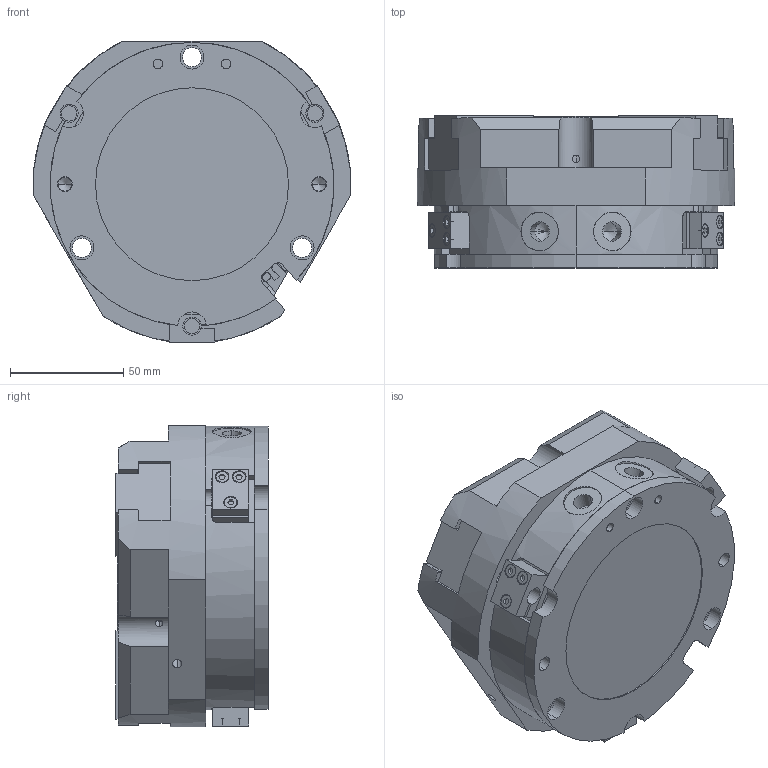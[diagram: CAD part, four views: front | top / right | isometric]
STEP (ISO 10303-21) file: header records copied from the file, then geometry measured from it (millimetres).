
FILE_DESCRIPTION (( 'STEP AP214' ), '1' );
FILE_NAME ('FCT 125A-1.STEP', '2021-09-17T05:34:32', ( 'DEEP' ), ( 'Microsoft' ), 'SwSTEP 2.0', 'SolidWorks 2016', '' );
FILE_SCHEMA (( 'AUTOMOTIVE_DESIGN' ));
Length unit declared in the file: millimetre
Products named in the file (17): FCT 125A-1-005; FCT 125A-1-003; FCT 125A-1-002; FCT 125A-1-006; FCT 125A-1-001; FCT 125A-1-004; FCT 125A-1
Assembly tree (10 placements, depth 2):
  FCT 125A-1-005
  FCT 125A-1-003
  FCT 125A-1-003
  FCT 125A-1-003
  FCT 125A-1-002
Bounding box: 140 x 67 x 132.82 mm (x, y, z)
Volume: 803191.6 mm3; surface area: 139168 mm2
Topology: 10 solids, 10 shells, 572 faces, 1452 edges, 928 vertices
Faces by surface type: plane 293, cylinder 207, cone 72
Entity records: 13376 total; most frequent: CARTESIAN_POINT 2745, DIRECTION 2178, ORIENTED_EDGE 2012, EDGE_CURVE 1006, AXIS2_PLACEMENT_3D 804, VERTEX_POINT 660, LINE 570, VECTOR 570
